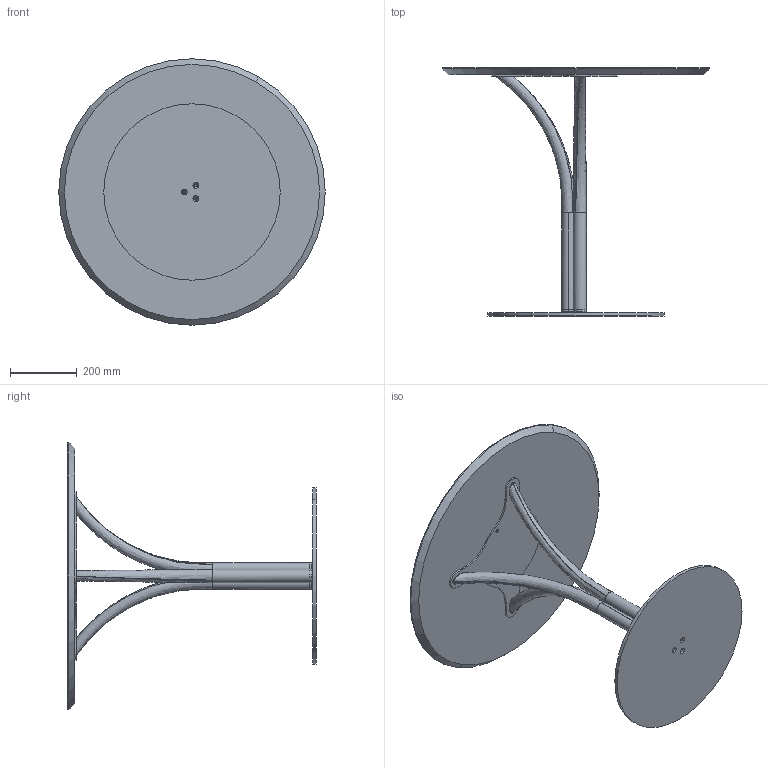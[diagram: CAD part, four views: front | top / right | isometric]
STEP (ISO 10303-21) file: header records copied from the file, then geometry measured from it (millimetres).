
FILE_DESCRIPTION (( 'STEP AP203' ), '1' );
FILE_NAME ('DB20W.STEP', '2024-08-08T08:14:19', ( '' ), ( '' ), 'SwSTEP 2.0', 'SolidWorks 2022', '' );
FILE_SCHEMA (( 'CONFIG_CONTROL_DESIGN' ));
Length unit declared in the file: millimetre
Products named in the file (6): DOD000000_02-00-Gamba curvata per DODO''_Default<A macchina>; DOD000000-01-DODO BASE ; DOD000000_01-01-poggiapiano; DB20W; W1XCMXX-00-Piani Rotondi legno_D.800 SP.20cm; CBS000000BAS-00-BISTRO PIASTRA INFERIORE_D.530
Assembly tree (7 placements, depth 3):
  DB20W
    CBS000000BAS-00-BISTRO PIASTRA INFERIORE_D.530
    DOD000000-01-DODO BASE 
      DOD000000_02-00-Gamba curvata per DODO''_Default<A macchina>  x3
      DOD000000_01-01-poggiapiano
    W1XCMXX-00-Piani Rotondi legno_D.800 SP.20cm
Bounding box: 800 x 745 x 800 mm (x, y, z)
Volume: 12788523.2 mm3; surface area: 2166355.3 mm2
Topology: 9 solids, 9 shells, 113 faces, 269 edges, 170 vertices
Faces by surface type: cylinder 61, plane 24, cone 16, bspline 12
Entity records: 6327 total; most frequent: CARTESIAN_POINT 3703, DIRECTION 443, ORIENTED_EDGE 378, EDGE_CURVE 189, AXIS2_PLACEMENT_3D 182, VERTEX_POINT 122, EDGE_LOOP 101, CIRCLE 94
